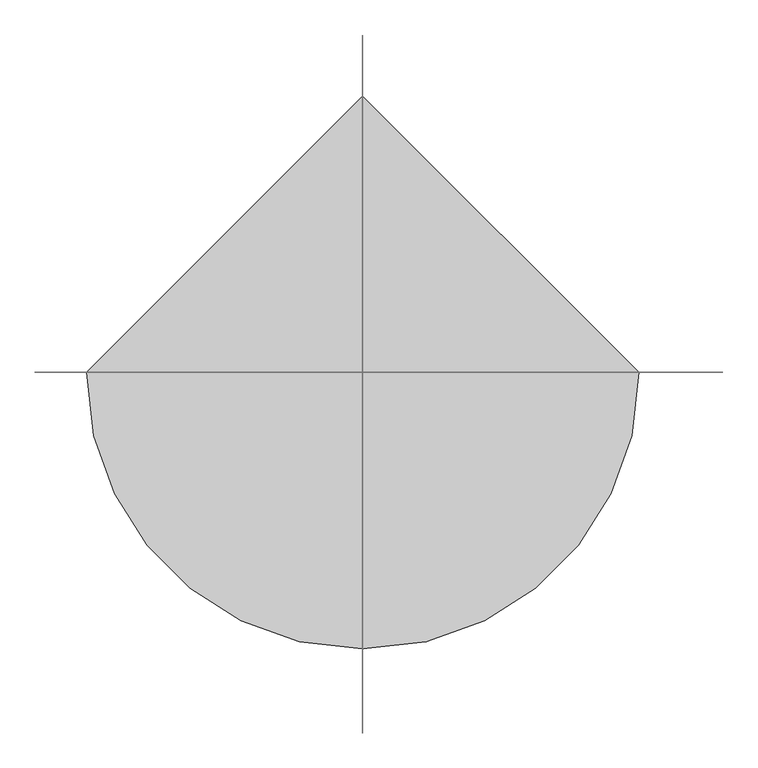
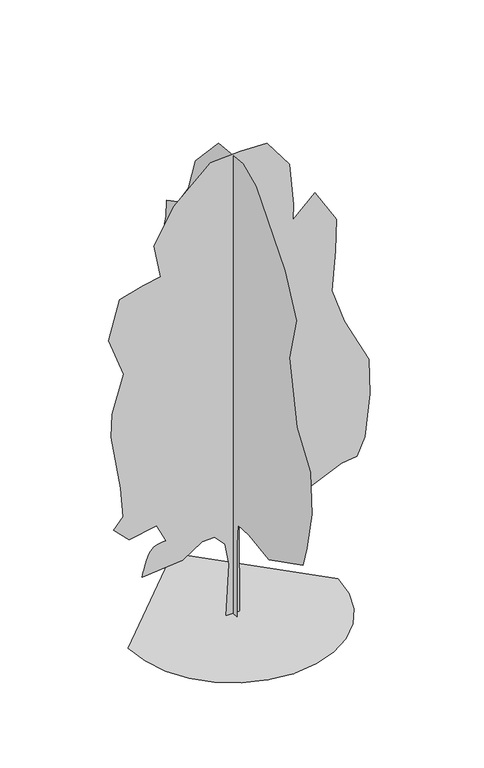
"""IFC4 building model written with IfcOpenShell, lengths in millimetres: geographic element geometry, M_RPC Árvore - Caduca : Freixo vermelho - 7,6 metros."""

from ifc_helpers import new_model, si_unit, origin, place, context, project, spatial, triangles, source, transform, mapped, element, save


def geographic_element_40acba24(model_context):
    return source(origin(), model_context, "Body", "Tessellation", [
        triangles([(-1640.6350319, 0.0, 6.17e-05), (-1597.2618073, -375.9250917, 6.17e-05), (-1473.7362076, -721.1521299, 6.17e-05), (-1279.9481815, -1025.7899305, 6.17e-05), (-1025.7900759, -1279.9483269, 6.17e-05), (-721.1519119, -1473.7357716, 6.17e-05), (-375.9249101, -1597.2618073, 6.17e-05), (7.17e-05, -1640.6350319, 6.17e-05), (375.9250917, -1597.2619526, 6.17e-05), (721.1521299, -1473.7360622, 6.17e-05), (1025.7900759, -1279.9481815, 6.17e-05), (1279.9486176, -1025.7900759, 6.17e-05), (1473.7359169, -721.1519119, 6.17e-05), (1597.2618073, -375.9248374, 6.17e-05), (1640.6350319, 0.0001434, 6.17e-05), (-0.0002151, 1640.6350319, 6.17e-05), (-1.07e-05, -102.5763152, 0.0), (2.5e-05, -100.9809819, 1191.4187742), (3.22e-05, -129.5410573, 1533.7667004), (7e-07, -437.6736119, 1554.0757805), (-5.76e-05, -973.8285673, 1474.4268631), (-0.0001401, -1898.6961697, 1943.5624718), (-0.0001409, -2005.9272697, 2292.063438), (-0.0001357, -2139.9660358, 2935.4496025), (-0.0001116, -2099.7546822, 3605.6435783), (-5.8e-05, -1735.814106, 4130.1484818), (-5.5e-06, -1523.3897175, 5147.0898972), (-3.5e-06, -1711.0423622, 5870.899205), (4.78e-05, -1402.7536217, 6514.2855148), (0.0001565, -625.3287638, 7439.1534805), (0.000198, -272.4836404, 7598.1990051), (0.0002655, 393.3664327, 7532.9808929), (0.0003113, 1023.3488731, 6862.7869171), (0.0003141, 1211.0034073, 6299.8236053), (0.0003314, 1492.4837551, 5897.7074524), (0.0003588, 1800.7742397, 5736.8608749), (0.0003522, 1814.1780727, 5468.7830521), (0.0003514, 1894.6015068, 5160.4937302), (0.0003267, 1760.5627407, 4798.5893669), (0.0003288, 1881.1976738, 4450.088546), (0.000327, 2001.8324615, 3967.5488136), (0.0003203, 1975.0247955, 3833.5096115), (0.0002869, 1747.159053, 3511.8164566), (0.0002722, 1732.7516476, 3069.4885139), (0.0002625, 1720.3510963, 2788.0068581), (0.0002535, 1733.7549294, 2439.5063278), (0.0002406, 1747.159053, 1956.9668861), (0.0002166, 1559.5046642, 1809.523851), (0.0001802, 1211.0038433, 1809.523851), (0.0001822, 1371.8504208, 1313.580431), (0.0001711, 1344.9556961, 1032.1683203), (0.0001512, 1100.1359739, 1224.6137684), (9.84e-05, 627.810589, 1103.8028286), (9.77e-05, 550.2637599, 1353.49907), (6.27e-05, 215.346067, 1350.4488201), (5.01e-05, 130.4579254, 1225.1105404), (3.26e-05, 79.3405423, 816.1354311), (1.17e-05, 111.8716144, 1.28e-05), (-110.5798692, 4.8e-06, 4.45e-05), (-66.5363775, -9.62e-05, 831.3140104), (-128.9679092, -0.0001356, 1184.825572), (-290.0246482, -0.0001497, 1361.7341778), (-482.3670685, -0.0001405, 1355.1302204), (-794.1779051, -0.0001027, 1152.7338535), (-1424.1603092, -6.88e-05, 1099.1184488), (-1415.4458702, -7.33e-05, 1133.781086), (-1406.1451298, -7.8e-05, 1169.6158899), (-1395.6722225, -8.3e-05, 1207.7952456), (-1383.4407017, -8.85e-05, 1249.4921917), (-1368.8645565, -9.46e-05, 1295.8774418), (-1351.3574856, -0.0001016, 1348.1257061), (-1330.3333328, -0.0001096, 1407.4074074), (-1303.8382931, -0.0001173, 1462.3908245), (-1271.0123898, -0.0001236, 1502.6024689), (-1232.9109364, -0.0001286, 1530.5039635), (-1190.588883, -0.0001326, 1548.5586754), (-1145.1018339, -0.0001358, 1559.2267742), (-1097.5041578, -0.0001386, 1564.971191), (-1048.8515316, -0.0001411, 1568.2539848), (-1196.294058, -0.0001698, 1863.1393284), (-1625.218531, -0.0001415, 1782.7160397), (-1866.4879612, -0.0001597, 2023.9863419), (-1719.0452168, -0.0001869, 2198.236607), (-1759.2568611, -0.0002427, 2680.7764847), (-1906.6994602, -0.0003433, 3578.8359123), (-1893.4979404, -0.0003882, 3950.7687332), (-1715.4032879, -0.0004676, 4551.3483536), (-1946.9112499, -0.0005333, 5187.3013962), (-1772.6605488, -0.0006144, 5803.88004), (-1410.7561855, -0.000643, 5911.1112854), (-1135.4252443, -0.0006608, 5959.6792511), (-1236.5059204, -0.0007209, 6500.8816818), (-928.2163805, -0.0007999, 7050.4411606), (-351.8493811, -0.0008874, 7573.192392), (117.2860368, -0.0009111, 7600.000058), (532.8066133, -0.0009277, 7586.5956436), (881.3074705, -0.000887, 7117.4603256), (945.3842279, -0.0008079, 6430.5952744), (936.1832634, -0.0007775, 6178.7100677), (1283.4236961, -0.0008311, 6500.8816818), (1618.5208294, -0.0007802, 5951.3222031), (1605.1169964, -0.0007177, 5432.2143539), (1545.3907001, -0.0006383, 4788.0519287), (1739.1557625, -0.0005793, 4222.2222221), (2126.1689129, -0.0005054, 3460.0925789), (2138.5076946, -0.0004374, 2885.2169128), (2060.848772, -0.0003521, 2198.2364616), (1940.213839, -0.0003133, 1916.7548058), (1698.9439728, -0.0002996, 1889.9471397), (1229.8082188, -0.0002535, 1675.4849396), (814.2876514, -0.0002002, 1380.5997414), (256.8007496, -0.0002044, 1620.3048775), (92.8066444, -0.0001762, 1443.8352711), (103.8818677, -4.5e-06, 3.51e-05)], [[15, 16, 1], [14, 15, 1], [14, 1, 2], [13, 14, 2], [13, 2, 3], [13, 3, 4], [12, 13, 4], [11, 12, 4], [11, 4, 5], [11, 5, 6], [11, 6, 7], [11, 7, 8], [11, 8, 9], [11, 9, 10], [50, 51, 52], [57, 58, 17], [57, 17, 18], [56, 57, 18], [56, 18, 19], [55, 56, 19], [49, 50, 52], [52, 53, 54], [49, 52, 54], [35, 36, 37], [46, 47, 48], [46, 48, 49], [21, 22, 23], [20, 21, 23], [20, 23, 24], [20, 24, 25], [20, 25, 26], [19, 20, 26], [19, 26, 27], [45, 46, 49], [31, 32, 33], [30, 31, 33], [29, 30, 33], [29, 33, 34], [28, 29, 34], [27, 28, 34], [19, 27, 34], [19, 34, 35], [19, 35, 37], [19, 37, 38], [19, 38, 39], [19, 39, 40], [19, 40, 41], [19, 41, 42], [19, 42, 43], [19, 43, 44], [19, 44, 45], [19, 45, 49], [19, 49, 54], [55, 19, 54], [64, 65, 66], [64, 66, 67], [64, 67, 68], [99, 100, 101], [64, 68, 69], [64, 69, 70], [64, 70, 71], [114, 59, 60], [113, 114, 60], [113, 60, 61], [113, 61, 62], [64, 71, 72], [64, 72, 73], [64, 73, 74], [64, 74, 75], [64, 75, 76], [64, 76, 77], [64, 77, 78], [64, 78, 79], [63, 64, 79], [81, 82, 83], [80, 81, 83], [99, 101, 102], [107, 108, 109], [110, 111, 112], [88, 89, 90], [87, 88, 90], [87, 90, 91], [80, 83, 84], [95, 96, 97], [95, 97, 98], [94, 95, 98], [93, 94, 98], [92, 93, 98], [91, 92, 98], [91, 98, 99], [87, 91, 99], [87, 99, 102], [87, 102, 103], [87, 103, 104], [86, 87, 104], [85, 86, 104], [84, 85, 104], [80, 84, 104], [80, 104, 105], [80, 105, 106], [80, 106, 107], [80, 107, 109], [80, 109, 110], [80, 110, 112], [79, 80, 112], [63, 79, 112], [62, 63, 112], [113, 62, 112]], closed=False),
    ])


if __name__ == "__main__":
    model = new_model("IFC4")
    model_context = context("Model", 3, world=origin())
    ifc_project = project(units=[si_unit("LENGTHUNIT", "METRE", prefix="MILLI")], contexts=[model_context])
    site = spatial("IfcSite", under=ifc_project)
    building = spatial("IfcBuilding", under=site)
    placement = place(None, origin())
    geographic_element_shape = geographic_element_40acba24(model_context)
    element("IfcGeographicElement", 1, ObjectType="M_RPC Árvore - Caduca : Freixo vermelho - 7,6 metros", at=placement, inside=building, context=model_context, shape_type="MappedRepresentation", body=[
        mapped(geographic_element_shape, transform((0.0, 0.0, 0.0), x_axis=(1.0, 0.0, 0.0), y_axis=(0.0, 1.0, 0.0), z_axis=(0.0, 0.0, 1.0))),
    ])
    save(model, "model.ifc")
